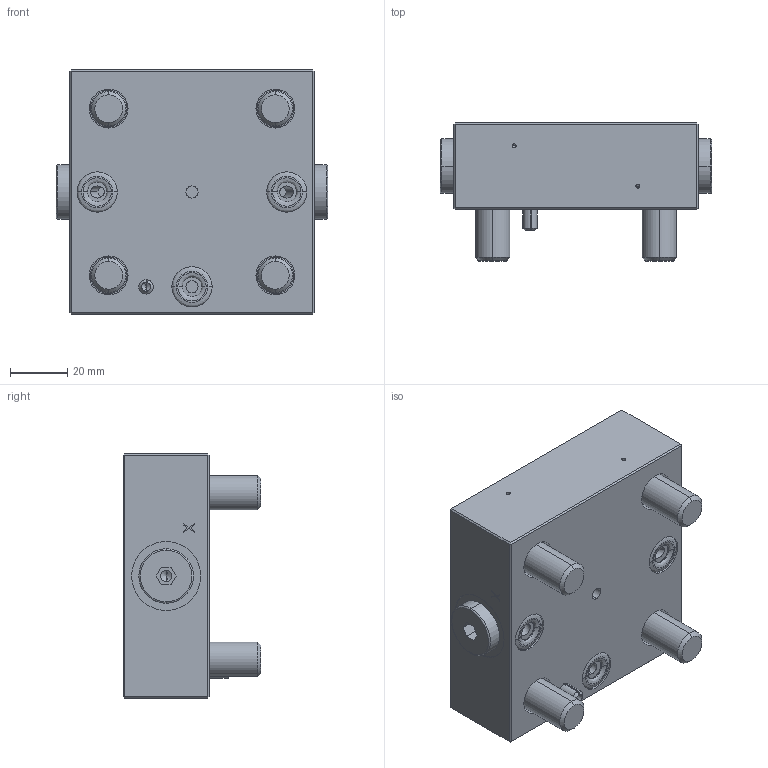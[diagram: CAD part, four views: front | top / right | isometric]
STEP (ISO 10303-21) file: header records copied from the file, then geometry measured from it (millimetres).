
FILE_DESCRIPTION (( 'STEP AP214' ), '1' );
FILE_NAME ('D25430.STEP', '2017-03-17T14:33:33', ( '' ), ( '' ), 'SwSTEP 2.0', 'SolidWorks 2016', '' );
FILE_SCHEMA (( 'AUTOMOTIVE_DESIGN' ));
Length unit declared in the file: millimetre
Products named in the file (1): D25430
Bounding box: 94.4 x 48 x 85 mm (x, y, z)
Volume: 217290.5 mm3; surface area: 44167.3 mm2
Topology: 9 solids, 12 shells, 336 faces, 754 edges, 460 vertices
Faces by surface type: plane 148, cylinder 102, cone 38, bspline 24, torus 20, sphere 4
Entity records: 13269 total; most frequent: CARTESIAN_POINT 1989, DIRECTION 1670, ORIENTED_EDGE 1472, EDGE_CURVE 736, AXIS2_PLACEMENT_3D 653, VERTEX_POINT 460, EDGE_LOOP 392, VECTOR 364
